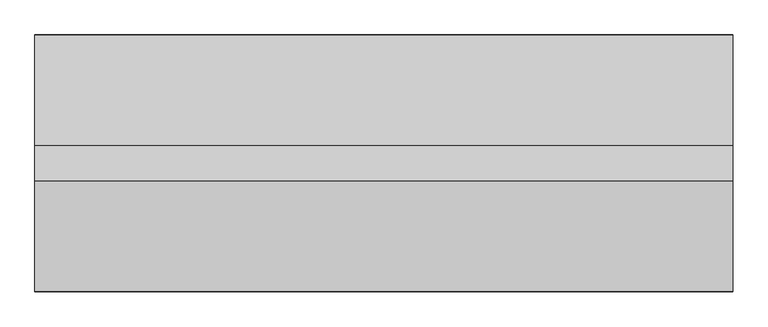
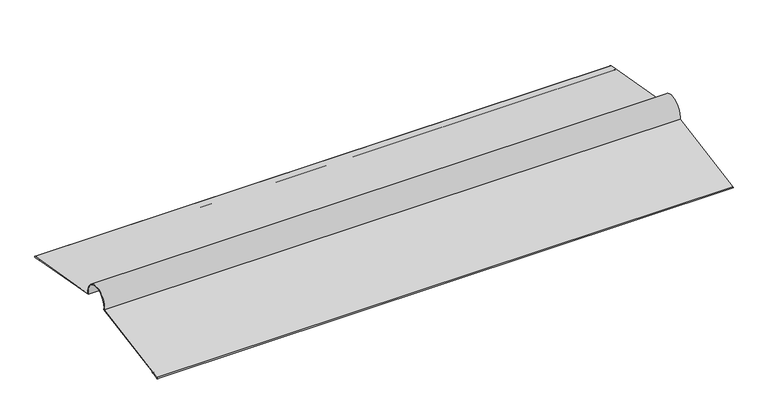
"""IFC4 building model written with IfcOpenShell, lengths in millimetres: proxy geometry, Faitiaire a bondin plat : Faitiaire a bondin plat."""

import ifcopenshell
import ifcopenshell.guid

model = None  # the IFC model being written
_history = None  # IfcOwnerHistory: only IFC2X3 demands one
_inside = {}  # id of a spatial element -> (the spatial element, [elements in it])
_under = {}  # id of a project, library or spatial element -> (it, [spatial elements below it])
_declared = {}  # id of a project -> (the project, [libraries it declares])
_typed = {}  # id of a type object -> (the type object, [elements of that type])
_made_of = {}  # id of a material, layer set ... -> (it, [elements and type objects made of it])


def new_model(schema):
    """Start an empty IFC model of exactly this schema.

    Asked for "IFC4X3", IfcOpenShell would pick the latest addendum, in which some entities
    have other attributes; the version numbers below select the first issue.
    IFC2X3 requires an IfcOwnerHistory on every rooted entity: one is made here for all.
    """
    global model, _history
    if schema == "IFC4X3":
        model = ifcopenshell.file(schema_version=(4, 3, 0, 0))
    else:
        model = ifcopenshell.file(schema=schema)
    _inside.clear()
    _under.clear()
    _declared.clear()
    _typed.clear()
    _made_of.clear()
    _history = None
    if model.schema == "IFC2X3":
        org = make("IfcOrganization", Name="unknown")
        user = make(
            "IfcPersonAndOrganization",
            ThePerson=make("IfcPerson", FamilyName="unknown"),
            TheOrganization=org,
        )
        app = make(
            "IfcApplication",
            ApplicationDeveloper=org,
            Version="unknown",
            ApplicationFullName="unknown",
            ApplicationIdentifier="unknown",
        )
        _history = make(
            "IfcOwnerHistory",
            OwningUser=user,
            OwningApplication=app,
            ChangeAction="ADDED",
            CreationDate=0,
        )
    return model


def make(cls, **values):
    """One entity of the class cls with the attributes given. An attribute that is None is left unset."""
    return model.create_entity(
        cls, **{name: value for name, value in values.items() if value is not None}
    )


def rooted(cls, **values):
    """An entity with a GlobalId (a new one), such as an element, a storey or a relation."""
    return make(cls, GlobalId=ifcopenshell.guid.new(), OwnerHistory=_history, **values)


def si_unit(unit_type, name, prefix=None):
    """IfcSIUnit, for example si_unit("LENGTHUNIT", "METRE", prefix="MILLI")."""
    return make("IfcSIUnit", UnitType=unit_type, Prefix=prefix, Name=name)


def assignment(units):
    """IfcUnitAssignment: the units of a project."""
    return None if units is None else make("IfcUnitAssignment", Units=units)


def point(xyz):
    """IfcCartesianPoint."""
    return None if xyz is None else make("IfcCartesianPoint", Coordinates=xyz)


def direction(xyz):
    """IfcDirection."""
    return None if xyz is None else make("IfcDirection", DirectionRatios=xyz)


def frame(location, z_axis=None, x_axis=None):
    """IfcAxis2Placement3D, a coordinate frame: its origin and axes. An axis left out is left unset."""
    return make(
        "IfcAxis2Placement3D",
        Location=point(location),
        Axis=direction(z_axis),
        RefDirection=direction(x_axis),
    )


def frame_2d(location, x_axis=None):
    """IfcAxis2Placement2D, a coordinate frame in the plane: its origin and x axis."""
    return make(
        "IfcAxis2Placement2D", Location=point(location), RefDirection=direction(x_axis)
    )


def origin():
    """The frame at (0, 0, 0) with its axes left unset."""
    return frame((0.0, 0.0, 0.0))


def origin_2d():
    """The frame at (0, 0) in the plane with its x axis left unset."""
    return frame_2d((0.0, 0.0))


def place(relative_to, where):
    """IfcLocalPlacement: puts the frame where relative to a parent placement (None: the world)."""
    return make(
        "IfcLocalPlacement", PlacementRelTo=relative_to, RelativePlacement=where
    )


def context(
    kind, dimensions, precision=None, world=None, true_north=None, identifier=None
):
    """IfcGeometricRepresentationContext, for example the 3D "Model" context."""
    return make(
        "IfcGeometricRepresentationContext",
        ContextIdentifier=identifier,
        ContextType=kind,
        CoordinateSpaceDimension=dimensions,
        Precision=precision,
        WorldCoordinateSystem=world,
        TrueNorth=true_north,
    )


def project(units=None, contexts=None):
    """IfcProject with its units and contexts."""
    return rooted(
        "IfcProject",
        Name="project",
        RepresentationContexts=contexts,
        UnitsInContext=assignment(units),
    )


def spatial(cls, under=None, at=None, **own):
    """A site, building, storey or space (cls), placed at a placement, below another one or the project."""
    s = rooted(cls, ObjectPlacement=at, **own)
    if under is not None:
        _under.setdefault(under.id(), (under, []))[1].append(s)
    return s


def polyline(points):
    """IfcPolyline through the points."""
    return make("IfcPolyline", Points=[point(p) for p in points])


def circle_curve(where, radius):
    """IfcCircle in the frame where."""
    return make("IfcCircle", Position=where, Radius=radius)


def trimmed(basis, trim1, trim2, sense, master):
    """IfcTrimmedCurve: the piece of a basis curve between two trims."""
    return make(
        "IfcTrimmedCurve",
        BasisCurve=basis,
        Trim1=trim1,
        Trim2=trim2,
        SenseAgreement=sense,
        MasterRepresentation=master,
    )


def segment(curve, same_sense, transition):
    """IfcCompositeCurveSegment."""
    return make(
        "IfcCompositeCurveSegment",
        Transition=transition,
        SameSense=same_sense,
        ParentCurve=curve,
    )


def composite_curve(segments, self_intersect=None):
    """IfcCompositeCurve: segments joined end to end."""
    return make("IfcCompositeCurve", Segments=segments, SelfIntersect=self_intersect)


def outline(outer, holes=None, kind="AREA"):
    """IfcArbitraryClosedProfileDef: a profile drawn as a closed curve; with holes, ...WithVoids."""
    if holes is None:
        return make("IfcArbitraryClosedProfileDef", ProfileType=kind, OuterCurve=outer)
    return make(
        "IfcArbitraryProfileDefWithVoids",
        ProfileType=kind,
        OuterCurve=outer,
        InnerCurves=holes,
    )


def extrude(swept, where, along, depth):
    """IfcExtrudedAreaSolid: the profile swept, set in the frame where, extruded along a direction by depth."""
    return make(
        "IfcExtrudedAreaSolid",
        SweptArea=swept,
        Position=where,
        ExtrudedDirection=direction(along),
        Depth=depth,
    )


def shape(context_of_items, identifier, shape_type, items):
    """IfcShapeRepresentation: the items that make up one representation, for example the "Body"."""
    return make(
        "IfcShapeRepresentation",
        ContextOfItems=context_of_items,
        RepresentationIdentifier=identifier,
        RepresentationType=shape_type,
        Items=items,
    )


def source(mapping_origin, context_of_items, identifier, shape_type, items):
    """IfcRepresentationMap: a shape defined once, which mapped items show again and again."""
    return make(
        "IfcRepresentationMap",
        MappingOrigin=mapping_origin,
        MappedRepresentation=shape(context_of_items, identifier, shape_type, items),
    )


def transform(
    local_origin,
    x_axis=None,
    y_axis=None,
    z_axis=None,
    scale=None,
    scale2=None,
    scale3=None,
    uniform=True,
):
    """IfcCartesianTransformationOperator3D, or its non-uniform kind. x_axis, y_axis, z_axis: its Axis1, 2, 3."""
    if uniform:
        return make(
            "IfcCartesianTransformationOperator3D",
            Axis1=direction(x_axis),
            Axis2=direction(y_axis),
            LocalOrigin=point(local_origin),
            Scale=scale,
            Axis3=direction(z_axis),
        )
    return make(
        "IfcCartesianTransformationOperator3DnonUniform",
        Axis1=direction(x_axis),
        Axis2=direction(y_axis),
        LocalOrigin=point(local_origin),
        Scale=scale,
        Axis3=direction(z_axis),
        Scale2=scale2,
        Scale3=scale3,
    )


def mapped(mapping_source, mapping_target):
    """IfcMappedItem: shows the shape of a source again, moved by a transform."""
    return make(
        "IfcMappedItem", MappingSource=mapping_source, MappingTarget=mapping_target
    )


def made_of(thing, what):
    """Note that an element or type object is made of a material, layer set ...; save() writes the relation."""
    if what is not None:
        _made_of.setdefault(what.id(), (what, []))[1].append(thing)
    return thing


def element(
    cls,
    number,
    at=None,
    inside=None,
    cuts=None,
    type_object=None,
    material=None,
    context=None,
    identifier="Body",
    shape_type=None,
    held_by="IfcProductDefinitionShape",
    body=None,
    shapes=None,
    **own,
):
    """One element of the class cls, such as IfcWall. Its Tag is "e" and its number.

    at: its placement. inside: the storey or other place that contains it. cuts: it is an
    opening in that element (IfcRelVoidsElement). A single representation is given by context,
    identifier, shape_type and body (its items); several are given by shapes. held_by: the class
    of the entity that holds the representations. save() writes the other relations.
    """
    e = rooted(cls, Tag="e%d" % number, ObjectPlacement=at, **own)
    if body is not None:
        shapes = [shape(context, identifier, shape_type, body)]
    if shapes is not None:
        e.Representation = make(held_by, Representations=shapes)
    if inside is not None:
        _inside.setdefault(inside.id(), (inside, []))[1].append(e)
    if cuts is not None:
        rooted(
            "IfcRelVoidsElement", RelatingBuildingElement=cuts, RelatedOpeningElement=e
        )
    if type_object is not None:
        _typed.setdefault(type_object.id(), (type_object, []))[1].append(e)
    return made_of(e, material)


def aggregate(whole, parts):
    """IfcRelAggregates: a whole, such as a stair, and the parts it consists of."""
    return rooted("IfcRelAggregates", RelatingObject=whole, RelatedObjects=parts)


def save(model, path):
    """Write the relations noted so far, then the file.

    IfcRelAggregates (storeys below a building ...), IfcRelContainedInSpatialStructure (elements
    in a storey), IfcRelDefinesByType, IfcRelAssociatesMaterial and IfcRelDeclares: one each for
    every whole, place, type object, material and project.
    """
    for whole, parts in _under.values():
        aggregate(whole, parts)
    for where, things in _inside.values():
        rooted(
            "IfcRelContainedInSpatialStructure",
            RelatedElements=things,
            RelatingStructure=where,
        )
    for kind, things in _typed.values():
        rooted("IfcRelDefinesByType", RelatedObjects=things, RelatingType=kind)
    for what, things in _made_of.values():
        rooted("IfcRelAssociatesMaterial", RelatedObjects=things, RelatingMaterial=what)
    for by, libraries in _declared.values():
        rooted("IfcRelDeclares", RelatingContext=by, RelatedDefinitions=libraries)
    model.write(path)


def generic_models_b31ef93d(model_context):
    return source(origin(), model_context, "Body", "SweptSolid", [
        extrude(outline(composite_curve([segment(polyline([(-183.1742421, -31.2831344), (-24.774138, -3.3529223)]), True, "CONTINUOUS"), segment(trimmed(circle_curve(origin_2d(), 25.0), [point((-24.774138, -3.3529223))], [point((24.774138, -3.3529223))], False, "CARTESIAN"), True, "CONTINUOUS"), segment(polyline([(24.774138, -3.3529223), (183.1742421, -31.2831344)]), True, "CONTINUOUS"), segment(trimmed(circle_curve(frame_2d((183.0005939, -32.2679422)), 1.0), [point((183.1742421, -31.2831344))], [point((182.8269457, -33.2527499))], False, "CARTESIAN"), True, "CONTINUOUS"), segment(polyline([(182.8269457, -33.2527499), (170.0244449, -30.9953236)]), True, "CONTINUOUS"), segment(trimmed(circle_curve(frame_2d((170.111269, -30.5029198)), 0.5), [point((170.0244449, -30.9953236))], [point((170.1980931, -30.0105159))], False, "CARTESIAN"), True, "CONTINUOUS"), segment(polyline([(170.1980931, -30.0105159), (23.6353861, -4.1675563)]), True, "CONTINUOUS"), segment(trimmed(circle_curve(origin_2d(), 24.0), [point((23.6353861, -4.1675563))], [point((-23.6353861, -4.1675563))], True, "CARTESIAN"), True, "CONTINUOUS"), segment(polyline([(-23.6353861, -4.1675563), (-170.1980931, -30.0105159)]), True, "CONTINUOUS"), segment(trimmed(circle_curve(frame_2d((-170.111269, -30.5029198)), 0.5), [point((-170.1980931, -30.0105159))], [point((-170.0244449, -30.9953236))], False, "CARTESIAN"), True, "CONTINUOUS"), segment(polyline([(-170.0244449, -30.9953236), (-182.8269457, -33.2527499)]), True, "CONTINUOUS"), segment(trimmed(circle_curve(frame_2d((-183.0005939, -32.2679422)), 1.0), [point((-182.8269457, -33.2527499))], [point((-183.1742421, -31.2831344))], False, "CARTESIAN"), True, "CONTINUOUS")], self_intersect=False)), frame((0.0, 0.0, 0.0), z_axis=(1.0, 0.0, 0.0), x_axis=(0.0, 1.0, 0.0)), (0.0, 0.0, 1.0), 1000.0),
    ])


if __name__ == "__main__":
    model = new_model("IFC4")
    model_context = context("Model", 3, world=origin())
    ifc_project = project(units=[si_unit("LENGTHUNIT", "METRE", prefix="MILLI")], contexts=[model_context])
    site = spatial("IfcSite", under=ifc_project)
    building = spatial("IfcBuilding", under=site)
    placement = place(None, origin())
    generic_models_shape = generic_models_b31ef93d(model_context)
    element("IfcBuildingElementProxy", 1, Name="Faitiaire a bondin plat : Faitiaire a bondin plat", ObjectType="Faitiaire a bondin plat : Faitiaire a bondin plat", at=placement, inside=building, context=model_context, shape_type="MappedRepresentation", body=[
        mapped(generic_models_shape, transform((0.0, 0.0, 0.0), x_axis=(1.0, 0.0, 0.0), y_axis=(0.0, 1.0, 0.0), z_axis=(0.0, 0.0, 1.0))),
    ])
    save(model, "model.ifc")
